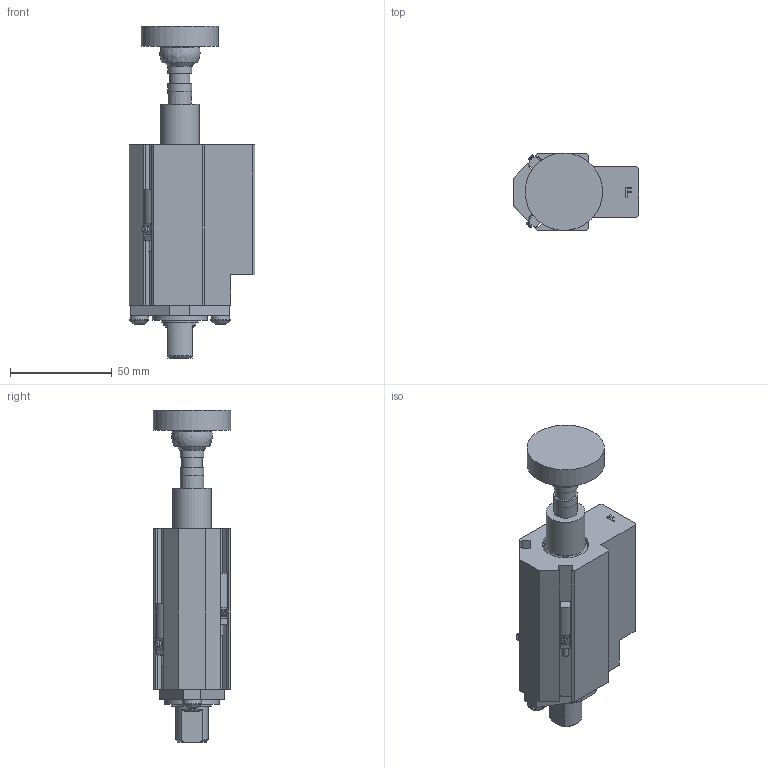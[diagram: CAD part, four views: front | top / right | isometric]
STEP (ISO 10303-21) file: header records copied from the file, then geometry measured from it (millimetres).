
FILE_DESCRIPTION(/* description */ ('MINI PASS THRU GROUND BLOCK'),/* implementation_level */ '2;1');
FILE_NAME(/* name */ 'C:\Vault Workspace\CAD\Welker\Cylinders\GBM\GBMBFL3.stp',/* time_stamp */ '2021-06-25T07:42:32-04:00',/* author */ ('KPL'),/* organization */ (''),/* preprocessor_version */ 'ST-DEVELOPER v18.1',/* originating_system */ 'Autodesk Inventor 2020',/* authorisation */ '');
FILE_SCHEMA (('AUTOMOTIVE_DESIGN { 1 0 10303 214 3 1 1 }'));
Products named in the file (11): GBML01; 91590A126; 96100A152; L3 Sensor 1; M5X0.8-10 BHCS; NL5; GBME01F; GBME02; GBME04; SN-1412; AN-05U2145
Assembly tree (13 placements, depth 2):
  GBML01
    91590A126
    96100A152
    L3 Sensor 1  x2
    M5X0.8-10 BHCS  x2
    NL5  x2
    GBME01F
    GBME02
    GBME04
    SN-1412
    AN-05U2145
Bounding box: 62 x 38.1 x 163.5 mm (x, y, z)
Volume: 143608.4 mm3; surface area: 51056.3 mm2
Topology: 13 solids, 13 shells, 439 faces, 1207 edges, 808 vertices
Faces by surface type: plane 310, cylinder 97, cone 22, torus 4, sphere 4, bspline 2
Full cylindrical faces by diameter (mm): 1.194 x2, 2.9 x2, 4.134 x2, 5 x2, 5.4 x2, 5.5 x2, 6.647 x1, 8 x2, 8.376 x2, 9 x2, 9.5 x2, 10 x1, 11.76 x2, 14.935 x1, 15.875 x3, 16.383 x1, 19.05 x1, 19.177 x1, 22.225 x2, 22.784 x1, 24.613 x1, 25.654 x1, 25.705 x1, 26.987 x1, 28.591 x1, 28.667 x1, 38.1 x1
Entity records: 10040 total; most frequent: CARTESIAN_POINT 1751, DIRECTION 1675, ORIENTED_EDGE 1586, EDGE_CURVE 793, AXIS2_PLACEMENT_3D 579, VERTEX_POINT 545, LINE 517, VECTOR 517
